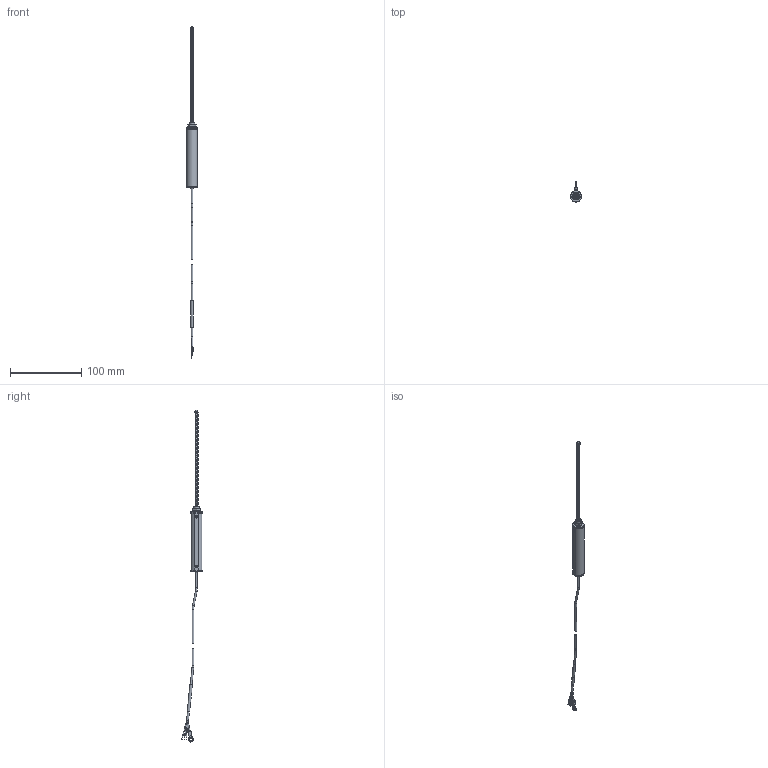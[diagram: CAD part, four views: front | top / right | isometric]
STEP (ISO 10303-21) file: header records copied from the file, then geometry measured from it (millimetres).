
FILE_DESCRIPTION(/* description */ (''),/* implementation_level */ '2;1');
FILE_NAME(/* name */ 'D:\Users\Justin\Documents\CAD Drawings\The Sensor Connection\LPPS\LPPS-MSL\3D\LPPS-MSL-075\LPPS-MSL-075.stp',/* time_stamp */ '2019-08-29T15:26:22-04:00',/* author */ ('Justin'),/* organization */ (''),/* preprocessor_version */ 'ST-DEVELOPER v18',/* originating_system */ 'Autodesk Inventor 2020',/* authorisation */ '');
FILE_SCHEMA (('AUTOMOTIVE_DESIGN { 1 0 10303 214 3 1 1 }'));
Length unit declared in the file: inch
Products named in the file (5): LPPS-MSL-025; LPPS-MSL-075 HOUSING_Shrinkwrap_1; LPPS-MSL-075 SHAFT_Shrinkwrap_1; ISO 4035 - M8(6); LPPS-MSL-075 Spring
Assembly tree (4 placements, depth 2):
  LPPS-MSL-025
    LPPS-MSL-075 HOUSING_Shrinkwrap_1
    LPPS-MSL-075 SHAFT_Shrinkwrap_1
    ISO 4035 - M8(6)
    LPPS-MSL-075 Spring
Bounding box: 15.1 x 28.76 x 466.79 mm (x, y, z)
Volume: 7814.6 mm3; surface area: 15600.5 mm2
Topology: 24 solids, 24 shells, 339 faces, 855 edges, 577 vertices
Faces by surface type: plane 162, cylinder 83, cone 70, torus 21, sphere 2, bspline 1
Full cylindrical faces by diameter (mm): 0.381 x3, 0.635 x3, 1.5 x1, 1.755 x4, 2 x8, 2.274 x1, 2.5 x6, 2.75 x1, 2.85 x3, 3 x1, 3.5 x5, 4.191 x1, 5 x3, 6.1 x1, 6.5 x2, 6.647 x1, 8 x1, 9 x3, 9.5 x1
Entity records: 23284 total; most frequent: CARTESIAN_POINT 14431, DIRECTION 1752, ORIENTED_EDGE 1698, EDGE_CURVE 849, AXIS2_PLACEMENT_3D 697, VERTEX_POINT 577, EDGE_LOOP 404, LINE 358
